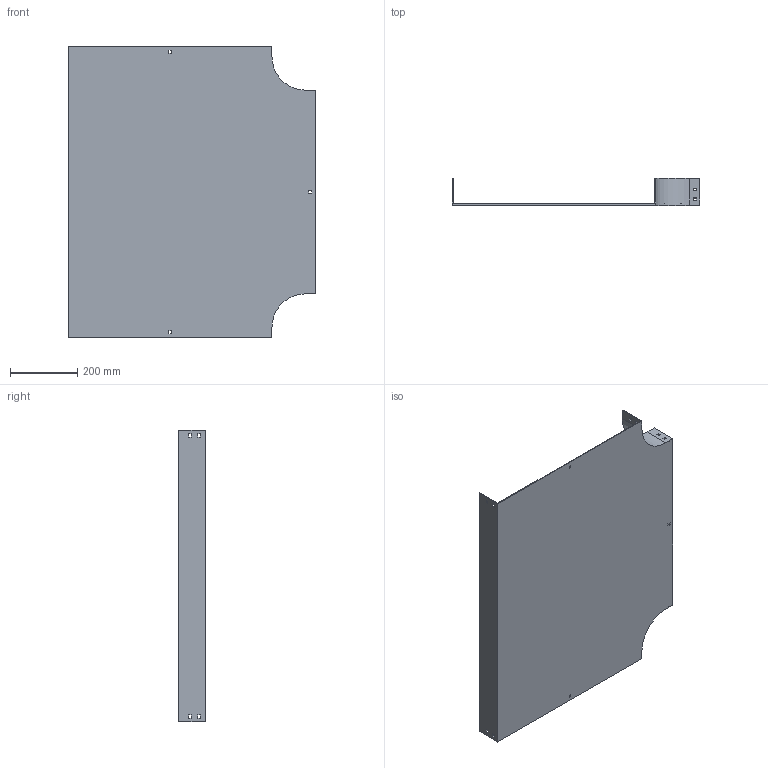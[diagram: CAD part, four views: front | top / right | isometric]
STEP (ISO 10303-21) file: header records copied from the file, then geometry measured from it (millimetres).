
FILE_DESCRIPTION (( 'STEP AP214' ), '1' );
FILE_NAME ('15F1C600.step', '2025-02-21T13:04:59', ( '' ), ( '' ), 'SwSTEP 2.0', 'SolidWorks 2023', '' );
FILE_SCHEMA (( 'AUTOMOTIVE_DESIGN' ));
Length unit declared in the file: millimetre
Products named in the file (1): 15F1C600
Bounding box: 734 x 79 x 864 mm (x, y, z)
Volume: 2457275.3 mm3; surface area: 1418381.8 mm2
Topology: 1 solids, 1 shells, 82 faces, 240 edges, 160 vertices
Faces by surface type: plane 78, cylinder 4
Entity records: 2755 total; most frequent: CARTESIAN_POINT 483, ORIENTED_EDGE 480, DIRECTION 414, EDGE_CURVE 240, LINE 232, VECTOR 232, VERTEX_POINT 160, EDGE_LOOP 112
